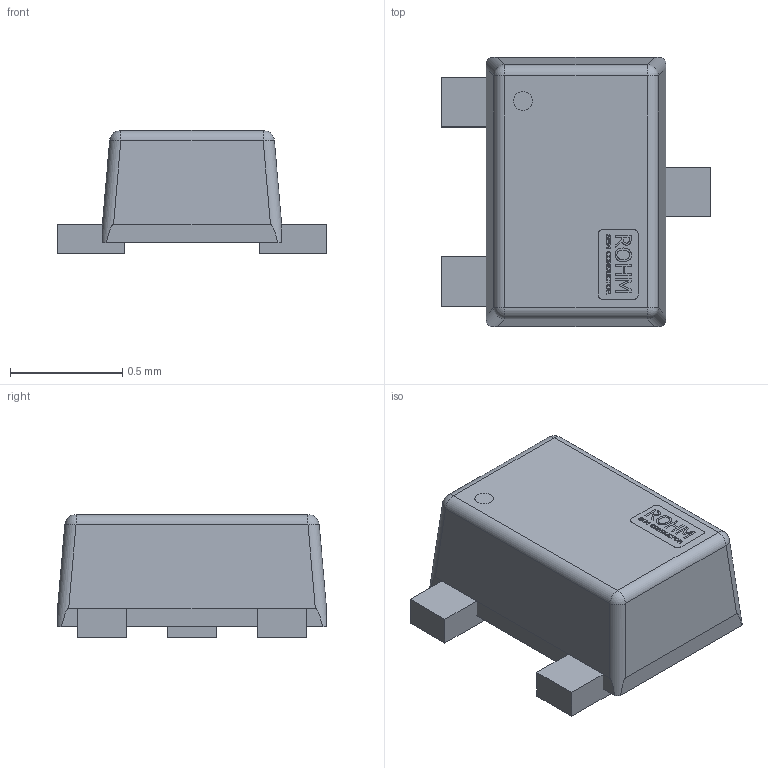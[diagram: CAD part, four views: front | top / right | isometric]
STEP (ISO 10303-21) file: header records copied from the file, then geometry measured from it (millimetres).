
FILE_DESCRIPTION(/* description */ (''),/* implementation_level */ '2;1');
FILE_NAME(/* name */ 'C:\Users\k\Desktop\SOT 723 0.55x0.22x0.13x1.2x0.8x0.4x1.2x0.15x0.3\1.stp',/* time_stamp */ '2019-08-16T14:34:36+02:00',/* author */ ('k'),/* organization */ (''),/* preprocessor_version */ 'ST-DEVELOPER v15.6',/* originating_system */ 'Autodesk Inventor 2015',/* authorisation */ '');
FILE_SCHEMA (('AUTOMOTIVE_DESIGN { 1 0 10303 214 3 1 1 }'));
Length unit declared in the file: millimetre
Products named in the file (5): 1; 2; 3; Notch
Bounding box: 1.2 x 1.2 x 0.55 mm (x, y, z)
Volume: 0.5 mm3; surface area: 4.9 mm2
Topology: 11 solids, 11 shells, 284 faces, 774 edges, 512 vertices
Faces by surface type: plane 151, bspline 116, cylinder 13, sphere 4
Full cylindrical faces by diameter (mm): 0.084 x1
Entity records: 9755 total; most frequent: CARTESIAN_POINT 3169, ORIENTED_EDGE 1546, DIRECTION 929, EDGE_CURVE 773, VERTEX_POINT 512, LINE 507, VECTOR 507, EDGE_LOOP 317
